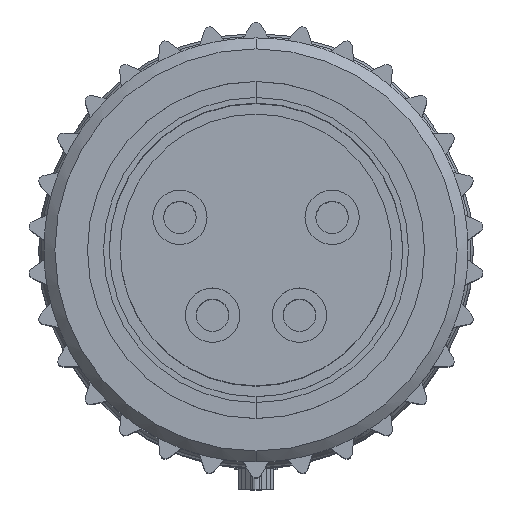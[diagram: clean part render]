
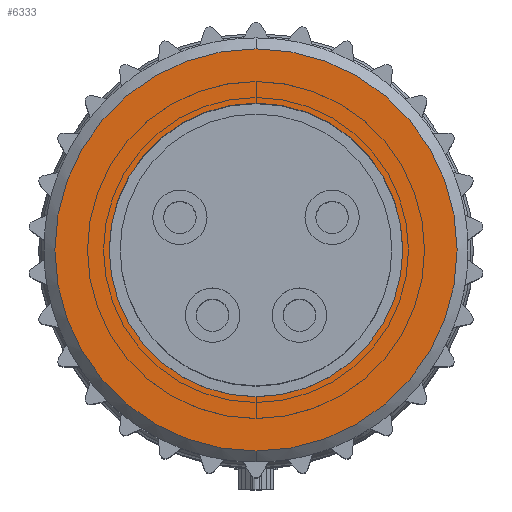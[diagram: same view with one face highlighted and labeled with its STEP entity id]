
A CAD part, top view. The second image highlights one B-rep face of the part: STEP entity #6333.
In plain terms, the highlighted planar face has unit normal (0, 0, 1).
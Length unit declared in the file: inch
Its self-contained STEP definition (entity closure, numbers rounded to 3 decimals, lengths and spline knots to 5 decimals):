
#228=CARTESIAN_POINT('',(0.,0.,0.));
#229=DIRECTION('',(0.,0.,1.));
#230=DIRECTION('',(0.,1.,0.));
#231=AXIS2_PLACEMENT_3D('',#228,#229,#230);
#247=CARTESIAN_POINT('',(0.,0.,0.));
#248=DIRECTION('',(0.,0.,-1.));
#249=DIRECTION('',(0.,1.,0.));
#250=AXIS2_PLACEMENT_3D('',#247,#248,#249);
#282=CARTESIAN_POINT('',(0.,0.,0.));
#283=DIRECTION('',(0.,0.,1.));
#284=DIRECTION('',(0.,1.,0.));
#285=AXIS2_PLACEMENT_3D('',#282,#283,#284);
#287=CARTESIAN_POINT('',(0.,0.,0.));
#288=DIRECTION('',(0.,0.,-1.));
#289=DIRECTION('',(0.,1.,0.));
#290=AXIS2_PLACEMENT_3D('',#287,#288,#289);
#4849=CARTESIAN_POINT('',(0.,0.135,0.));
#4850=CARTESIAN_POINT('',(0.,-0.135,0.));
#4851=VERTEX_POINT('',#4849);
#4852=VERTEX_POINT('',#4850);
#4857=CARTESIAN_POINT('',(0.,0.185,0.));
#4858=CARTESIAN_POINT('',(0.,-0.185,0.));
#4859=VERTEX_POINT('',#4857);
#4860=VERTEX_POINT('',#4858);
#6318=CARTESIAN_POINT('',(0.,0.,0.));
#6319=DIRECTION('',(0.,0.,1.));
#6320=DIRECTION('',(0.,1.,0.));
#6321=AXIS2_PLACEMENT_3D('',#6318,#6319,#6320);
#6322=PLANE('',#6321);
#6324=ORIENTED_EDGE('',*,*,#6323,.F.);
#6326=ORIENTED_EDGE('',*,*,#6325,.T.);
#6327=EDGE_LOOP('',(#6324,#6326));
#6328=FACE_OUTER_BOUND('',#6327,.F.);
#6329=ORIENTED_EDGE('',*,*,#6286,.F.);
#6330=ORIENTED_EDGE('',*,*,#6255,.T.);
#6331=EDGE_LOOP('',(#6329,#6330));
#6332=FACE_BOUND('',#6331,.F.);
#6333=ADVANCED_FACE('',(#6328,#6332),#6322,.T.);
#232=CIRCLE('',#231,0.135);
#251=CIRCLE('',#250,0.135);
#286=CIRCLE('',#285,0.185);
#291=CIRCLE('',#290,0.185);
#6255=EDGE_CURVE('',#4851,#4852,#232,.T.);
#6286=EDGE_CURVE('',#4851,#4852,#251,.T.);
#6323=EDGE_CURVE('',#4859,#4860,#286,.T.);
#6325=EDGE_CURVE('',#4859,#4860,#291,.T.);
